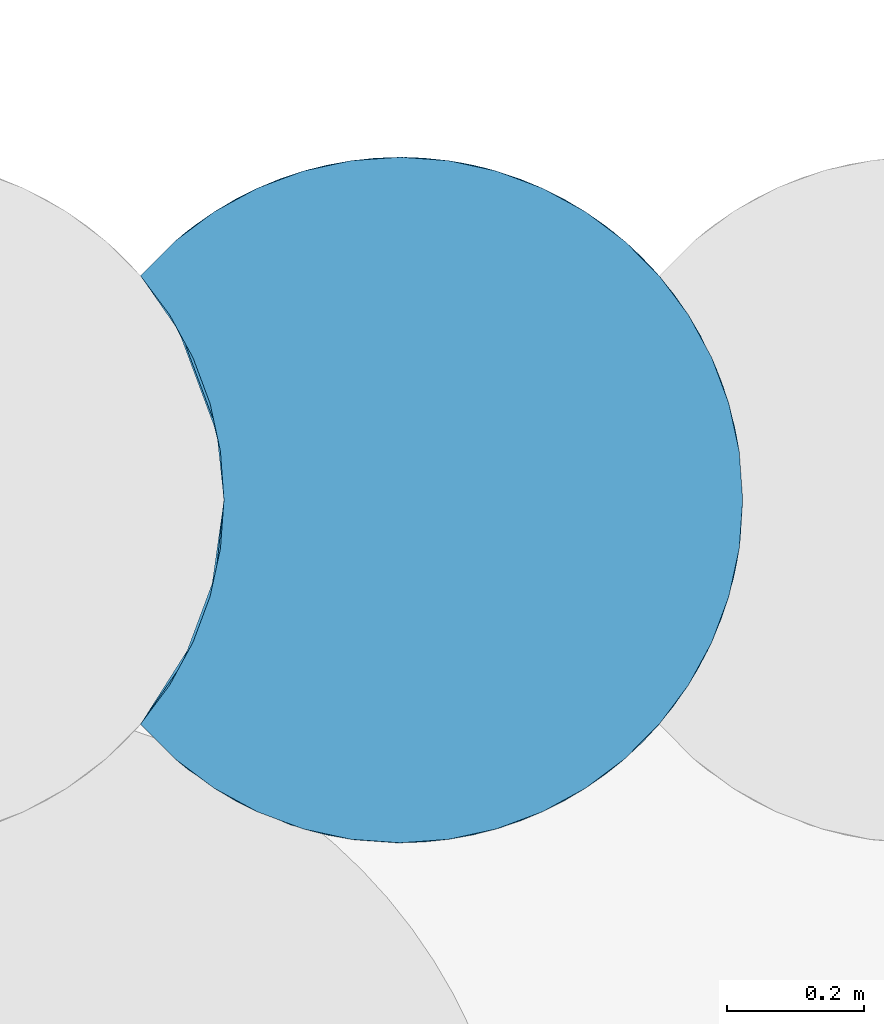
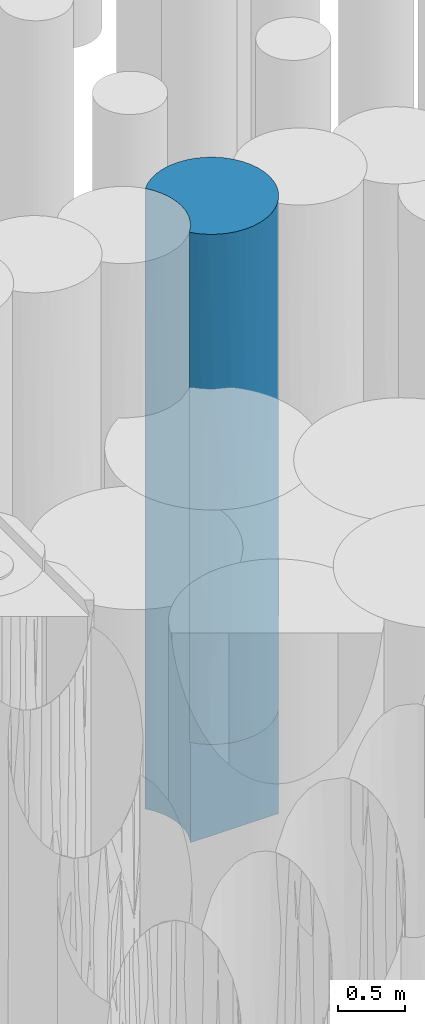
# One storey, part 30 of 104: 1 pile.
"""IFC2X3 building model written with IfcOpenShell, lengths in millimetres."""

from ifc_helpers import new_model, entity, si_unit, converted_unit, derived_unit, direction, frame, origin, place, context, subcontext, project, spatial, faceted_brep, source, transform, mapped, material, element, save


model = new_model("IFC2X3")

# Units and contexts
model_context = context("Model", 3, precision=0.01, world=origin(), true_north=direction((6.12303176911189e-17, 1.0)))
body_context = subcontext(model_context, "Body", "Model", "MODEL_VIEW")
ifc_project = project(units=[si_unit("LENGTHUNIT", "METRE", prefix="MILLI"), si_unit("AREAUNIT", "SQUARE_METRE", prefix="MILLI"), si_unit("VOLUMEUNIT", "CUBIC_METRE"), converted_unit("PLANEANGLEUNIT", "DEGREE", entity("IfcRatioMeasure", 0.0174532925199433), si_unit("PLANEANGLEUNIT", "RADIAN"), dimensions=[0, 0, 0, 0, 0, 0, 0]), si_unit("MASSUNIT", "GRAM", prefix="KILO"), derived_unit("MASSDENSITYUNIT", [(si_unit("MASSUNIT", "GRAM", prefix="KILO"), 1), (si_unit("LENGTHUNIT", "METRE"), -3)]), derived_unit("MOMENTOFINERTIAUNIT", [(si_unit("LENGTHUNIT", "METRE"), 4)]), si_unit("TIMEUNIT", "SECOND"), si_unit("FREQUENCYUNIT", "HERTZ"), si_unit("THERMODYNAMICTEMPERATUREUNIT", "DEGREE_CELSIUS"), derived_unit("THERMALTRANSMITTANCEUNIT", [(si_unit("MASSUNIT", "GRAM", prefix="KILO"), 1), (si_unit("THERMODYNAMICTEMPERATUREUNIT", "KELVIN"), -1), (si_unit("TIMEUNIT", "SECOND"), -3)]), derived_unit("VOLUMETRICFLOWRATEUNIT", [(si_unit("LENGTHUNIT", "METRE"), 3), (si_unit("TIMEUNIT", "SECOND"), -1)]), si_unit("ELECTRICCURRENTUNIT", "AMPERE"), si_unit("ELECTRICVOLTAGEUNIT", "VOLT"), si_unit("POWERUNIT", "WATT"), si_unit("FORCEUNIT", "NEWTON", prefix="KILO"), si_unit("ILLUMINANCEUNIT", "LUX"), si_unit("LUMINOUSFLUXUNIT", "LUMEN"), si_unit("LUMINOUSINTENSITYUNIT", "CANDELA"), derived_unit("USERDEFINED", [(si_unit("MASSUNIT", "GRAM", prefix="KILO"), -1), (si_unit("LENGTHUNIT", "METRE"), -2), (si_unit("TIMEUNIT", "SECOND"), 3), (si_unit("LUMINOUSFLUXUNIT", "LUMEN"), 1)]), derived_unit("LINEARVELOCITYUNIT", [(si_unit("LENGTHUNIT", "METRE"), 1), (si_unit("TIMEUNIT", "SECOND"), -1)]), si_unit("PRESSUREUNIT", "PASCAL"), derived_unit("USERDEFINED", [(si_unit("LENGTHUNIT", "METRE"), -2), (si_unit("MASSUNIT", "GRAM", prefix="KILO"), 1), (si_unit("TIMEUNIT", "SECOND"), -2)]), derived_unit("LINEARFORCEUNIT", [(si_unit("MASSUNIT", "GRAM", prefix="KILO"), 1), (si_unit("LENGTHUNIT", "METRE"), 1), (si_unit("TIMEUNIT", "SECOND"), -2), (si_unit("LENGTHUNIT", "METRE"), -1)]), derived_unit("PLANARFORCEUNIT", [(si_unit("MASSUNIT", "GRAM", prefix="KILO"), 1), (si_unit("LENGTHUNIT", "METRE"), 1), (si_unit("TIMEUNIT", "SECOND"), -2), (si_unit("LENGTHUNIT", "METRE"), -2)])], contexts=[model_context])

# Site, building, storey
site_placement = place(None, origin())
site = spatial("IfcSite", under=ifc_project, at=site_placement, Name="Theater aan de Parade", CompositionType="ELEMENT")
building_placement = place(site_placement, origin())
building = spatial("IfcBuilding", under=site, at=building_placement, Name="Theater aan de Parade", CompositionType="ELEMENT")
storey_placement = place(building_placement, frame((0.0, 0.0, -5520.0)))
storey = spatial("IfcBuildingStorey", under=building, at=storey_placement, Name="-2 kelder", CompositionType="ELEMENT", Elevation=-5520.0)

# Pile
ifc_material = material(Name="00_PBT_MAT_grout")
shared_shape = source(origin(), body_context, "Body", "Brep", [
    faceted_brep([(379.879894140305, 1001.59527223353, 0.0), (451.135842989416, 996.491974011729, 0.0), (520.937017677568, 981.286001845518, 0.0), (587.858902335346, 956.287680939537, 0.0), (650.535674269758, 922.007022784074, 0.0), (707.688019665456, 879.143347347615, 0.0), (758.137916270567, 828.577274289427, 0.0), (800.764509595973, 771.515742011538, 0.0), (834.8429887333, 708.982775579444, 0.0), (859.692501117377, 642.239896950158, 0.0), (874.807578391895, 572.642219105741, 0.0), (879.880986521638, 501.595272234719, 0.0), (876.637177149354, 444.733271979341, 0.0), (866.96351374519, 388.676665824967, 0.0), (850.978622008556, 334.06313251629, 0.0), (828.879872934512, 281.595272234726, 0.0), (72.3084443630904, 281.595272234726, 0.0), (94.4019982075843, 334.048524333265, 0.0), (110.389831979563, 388.666946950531, 0.0), (120.066807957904, 444.742527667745, 0.0), (123.309557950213, 501.595272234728, 0.0), (118.238136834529, 572.628375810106, 0.0), (103.126750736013, 642.220524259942, 0.0), (78.2819444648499, 708.959993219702, 0.0), (44.2077119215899, 771.492926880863, 0.0), (1.59527223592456, 828.550801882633, 0.0), (52.0619478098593, 879.132923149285, 0.0), (109.216398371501, 922.000648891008, 0.0), (171.896165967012, 956.284522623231, 0.0), (238.82055225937, 981.284707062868, 0.0), (308.623372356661, 996.491576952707, 0.0), (868.237975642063, 608.868060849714, 3274.7733182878), (879.880986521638, 501.595272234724, 2496.92455001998), (872.469147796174, 587.367665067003, 2029.23110971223), (874.807578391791, 572.642219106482, 5620.0), (872.790677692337, 585.500196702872, 4448.84672051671), (859.69250108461, 642.239897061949, 5620.0), (840.84871027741, 695.267050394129, 838.572364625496), (780.477533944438, 800.79822374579, 941.938246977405), (717.902638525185, 870.026219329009, 853.985396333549), (464.773906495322, 994.335763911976, 4766.2452474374), (554.84499069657, 969.9835697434, 4677.89128729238), (486.308348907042, 990.13720138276, 3926.99183942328), (780.477533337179, 800.798224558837, 4359.72037239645), (758.157091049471, 828.561919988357, 5620.0), (800.764509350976, 771.515742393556, 5620.0), (469.372625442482, 993.521330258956, 2771.91834266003), (619.810314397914, 940.268177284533, 2810.0), (486.308348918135, 990.137201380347, 1616.8448459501), (503.444214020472, 986.086891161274, 807.926128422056), (72.226388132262, 895.738200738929, 1468.54201705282), (1.59527223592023, 828.550801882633, 1561.53797879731), (273.450019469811, 990.136416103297, 1369.22367124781), (619.810315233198, 940.26817682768, 1308.96625276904), (879.880986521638, 501.595272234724, 4839.23113750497), (744.845895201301, 843.356322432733, 3309.55466343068), (679.878371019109, 901.59723384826, 4157.39703894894), (79.8725308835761, 901.58893036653, 4644.80342660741), (52.0619478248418, 879.132923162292, 5620.0), (109.21639835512, 922.000648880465, 5620.0), (879.880986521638, 501.595272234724, 1561.53772498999), (586.541682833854, 956.887877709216, 3739.26694369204), (389.039049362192, 1001.51139508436, 1793.99271443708), (868.490803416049, 607.710524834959, 929.942290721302), (451.135842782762, 996.491974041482, 5620.0), (379.879894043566, 1001.59527223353, 5620.0), (415.599127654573, 1000.31785483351, 908.530614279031), (848.45759074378, 676.054338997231, 4359.70948984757), (834.842988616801, 708.982775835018, 5620.0), (818.918499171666, 740.85676618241, 3234.26713947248), (1.59527223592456, 828.550801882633, 3123.07595759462), (61.9110545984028, 887.464579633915, 3590.76885422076), (68.1882758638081, 892.552628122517, 2590.58974056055), (344.160365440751, 1000.31767721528, 4295.47011353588), (308.623372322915, 996.491576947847, 5620.0), (650.535673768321, 922.007023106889, 5620.0), (707.688019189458, 879.143347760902, 5620.0), (171.89616594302, 956.284522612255, 5620.0), (238.820552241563, 981.284707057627, 5620.0), (204.911275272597, 969.981437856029, 4644.80576571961), (800.902375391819, 771.300648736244, 1891.90438181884), (848.457591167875, 676.054337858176, 1666.8684301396), (1.59527223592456, 828.550801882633, 5620.0), (139.943160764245, 940.263529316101, 960.825074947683), (879.880986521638, 501.595272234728, 4058.46227500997), (879.880986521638, 501.595272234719, 2810.0), (139.94316053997, 940.263529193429, 1976.25895999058), (249.52579601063, 984.303801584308, 3618.97619833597), (139.943160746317, 940.263529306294, 3852.81729588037), (733.827266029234, 854.755336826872, 1693.03978298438), (1.59527223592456, 828.550801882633, 4058.46202120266), (587.858901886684, 956.287681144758, 5620.0), (520.937017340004, 981.286001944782, 5620.0), (691.049980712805, 892.969590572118, 2404.07247122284), (879.880986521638, 501.595272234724, 5620.0), (148.841139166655, 945.01447449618, 2914.53812772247), (395.600625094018, 1001.34810410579, 3455.05166922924), (236.822647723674, 980.692664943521, 2354.5142891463), (344.160364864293, 1000.317677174, 2614.63322816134), (760.03102754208, 826.381273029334, 2475.87045222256), (852.90126574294, 663.619392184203, 2551.21472388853), (109.218127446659, 81.1887823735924, 1000.0), (171.900334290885, 46.9041151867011, 1000.0), (139.946073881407, 62.9254217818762, 1960.83076234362), (868.249817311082, 394.376406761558, 1095.51766968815), (52.0616515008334, 124.057878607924, 1000.0), (72.2277471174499, 107.451282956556, 2468.55227379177), (219.851591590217, 27.8964303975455, 3377.23961249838), (273.457935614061, 13.0524038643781, 2397.70917771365), (313.934714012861, 5.9632624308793, 3256.16165222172), (238.827254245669, 21.9038666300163, 1000.0), (308.632495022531, 6.69765407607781, 1000.0), (868.576941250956, 395.877422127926, 3250.85384075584), (872.224581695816, 414.430002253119, 4638.91679328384), (379.891107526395, 1.59527233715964, 1000.0), (451.148623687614, 6.70041078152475, 1000.0), (415.611160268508, 2.87355154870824, 2131.63816377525), (619.810315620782, 62.9223678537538, 4675.44822935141), (520.937017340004, 21.9045425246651, 5620.0), (486.308349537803, 13.0533432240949, 4394.95842070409), (139.943161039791, 62.9270150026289, 4329.654324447), (171.896165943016, 46.9060218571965, 5620.0), (109.21639835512, 81.1898955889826, 5620.0), (415.611160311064, 2.87355155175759, 3309.99156499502), (374.929221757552, 1.61979281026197, 4574.50689499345), (139.946073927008, 62.9254217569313, 2976.27378498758), (554.858770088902, 33.2121221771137, 2398.16872201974), (520.950689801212, 21.9085632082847, 1000.0), (587.872693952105, 46.9091721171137, 1000.0), (865.283747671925, 381.661292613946, 2185.76885280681), (650.548786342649, 81.191963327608, 1000.0), (679.890799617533, 101.602632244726, 2277.93081230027), (753.904323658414, 169.772212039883, 1973.19405511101), (778.382906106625, 199.608153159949, 3310.00863151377), (702.650683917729, 119.731785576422, 3256.91390852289), (1.5952722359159, 174.639742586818, 2561.53770750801), (1.5952722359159, 174.639742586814, 3342.30656126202), (1.5952722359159, 174.639742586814, 4123.07541501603), (71.0484315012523, 108.374656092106, 3732.69098814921), (61.1388618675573, 116.363578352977, 4662.75544674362), (834.030131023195, 292.433720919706, 3150.3198759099), (848.457591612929, 327.136207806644, 4098.49681985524), (828.879872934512, 281.595272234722, 1000.0), (523.466913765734, 22.6557337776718, 3362.22140211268), (273.450019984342, 13.0541282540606, 4114.58137139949), (238.820552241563, 21.9058374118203, 5620.0), (308.62337232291, 6.69896752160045, 5620.0), (1.5952722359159, 174.639742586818, 1000.0), (451.135842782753, 6.69857042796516, 5620.0), (379.879894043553, 1.5952722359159, 5620.0), (619.810315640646, 62.9223678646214, 3675.40494369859), (707.69970369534, 124.05734212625, 1000.0), (813.813841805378, 253.195841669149, 2211.63549262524), (796.953909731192, 225.823307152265, 1000.0), (800.764509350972, 231.674802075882, 5620.0), (800.620012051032, 231.449621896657, 4238.5371862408), (834.842988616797, 294.207768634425, 5620.0), (758.166700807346, 174.639742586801, 1000.0), (733.827266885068, 148.43520850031, 4404.10424705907), (758.157091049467, 174.628624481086, 5620.0), (587.85890188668, 46.9028633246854, 5620.0), (859.692501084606, 360.950647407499, 5620.0), (1.59527223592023, 174.639742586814, 5620.0), (650.535673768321, 81.1835213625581, 5620.0), (707.688019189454, 124.047196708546, 5620.0), (874.807578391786, 430.548325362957, 5620.0), (52.0619478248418, 124.057621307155, 5620.0), (118.238136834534, 572.628375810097, 5620.0), (123.309557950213, 501.595272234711, 5620.0), (118.238136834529, 430.562168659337, 5620.0), (103.126750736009, 360.970020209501, 5620.0), (78.2819444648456, 294.230551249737, 5620.0), (44.2077119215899, 231.697617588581, 5620.0), (44.2077119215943, 771.492926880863, 5620.0), (78.2819444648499, 708.959993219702, 5620.0), (103.126750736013, 642.220524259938, 5620.0), (57.6972719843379, 749.198410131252, 1466.5777030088), (91.8940522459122, 676.033145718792, 959.607558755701), (91.8940518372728, 676.033146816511, 1973.54784366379), (51.0253182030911, 760.553238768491, 3590.76885486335), (55.2465190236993, 753.449320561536, 2591.96489924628), (114.790868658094, 593.498053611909, 2591.96487227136), (113.865321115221, 598.316744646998, 1466.57769835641), (123.309557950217, 501.595272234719, 1561.53772533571), (116.242558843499, 585.363145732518, 3590.76885123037), (123.309557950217, 501.595272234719, 3123.07545067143), (123.309557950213, 501.595272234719, 4058.46227466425), (91.8940514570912, 676.033147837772, 3856.2082679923), (111.923000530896, 607.693828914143, 4646.91290735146), (62.3595462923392, 740.833872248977, 4646.91290345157), (123.309557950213, 501.595272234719, 2810.0), (62.3595469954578, 262.356673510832, 4717.37896061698), (111.564927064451, 393.860901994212, 1098.76555933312), (72.3084443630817, 281.595272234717, 1000.0), (103.748191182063, 363.108017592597, 2185.76885279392), (59.5557267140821, 257.28137529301, 2036.35430148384), (80.3363404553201, 298.798526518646, 3013.88536214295), (40.3944701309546, 225.841439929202, 1000.0), (52.9290067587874, 245.807998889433, 3897.62512214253), (111.923000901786, 395.496717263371, 4717.37896068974), (91.8940525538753, 327.157399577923, 4015.2108533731), (113.298293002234, 402.041068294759, 3273.65625530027)], [[[0, 1, 2, 3, 4, 5, 6, 7, 8, 9, 10, 11, 12, 13, 14, 15, 16, 17, 18, 19, 20, 21, 22, 23, 24, 25, 26, 27, 28, 29, 30]], [[31, 32, 33]], [[34, 35, 36]], [[37, 7, 38]], [[6, 5, 39]], [[7, 6, 38]], [[40, 41, 42]], [[43, 44, 45]], [[46, 47, 48]], [[2, 49, 3]], [[50, 26, 51]], [[30, 29, 52]], [[53, 39, 4]], [[38, 6, 39]], [[35, 34, 54]], [[55, 47, 56]], [[53, 4, 3]], [[57, 58, 59]], [[60, 33, 32]], [[41, 61, 42]], [[48, 62, 46]], [[63, 10, 9]], [[64, 40, 65]], [[66, 62, 48]], [[36, 67, 68]], [[53, 3, 49]], [[67, 43, 68]], [[69, 67, 31]], [[70, 71, 72]], [[68, 43, 45]], [[73, 74, 65]], [[75, 76, 56]], [[77, 78, 79]], [[41, 75, 56]], [[37, 80, 81]], [[30, 52, 66]], [[82, 58, 57]], [[48, 49, 66]], [[55, 43, 69]], [[52, 29, 83]], [[31, 84, 85, 32]], [[86, 83, 50]], [[79, 87, 88]], [[63, 9, 37]], [[37, 9, 8]], [[39, 89, 38]], [[51, 26, 25]], [[83, 28, 27]], [[47, 53, 48]], [[11, 10, 63]], [[90, 71, 70]], [[67, 69, 43]], [[91, 41, 92]], [[93, 53, 47]], [[41, 40, 92]], [[40, 64, 92]], [[34, 94, 54]], [[56, 43, 55]], [[66, 49, 1]], [[79, 88, 57]], [[72, 95, 86]], [[42, 96, 73]], [[97, 52, 86]], [[79, 74, 73]], [[83, 29, 28]], [[59, 77, 79]], [[43, 76, 44]], [[72, 51, 70]], [[1, 0, 66]], [[76, 43, 56]], [[79, 57, 59]], [[83, 27, 26]], [[52, 83, 86]], [[74, 79, 78]], [[87, 79, 73]], [[71, 57, 88]], [[82, 57, 90]], [[75, 41, 91]], [[61, 56, 47]], [[80, 38, 89]], [[37, 81, 63]], [[33, 63, 81]], [[11, 63, 60]], [[30, 66, 0]], [[62, 52, 98]], [[96, 87, 73]], [[95, 97, 86]], [[99, 80, 89]], [[100, 80, 69]], [[56, 61, 41]], [[46, 61, 47]], [[63, 33, 60]], [[33, 100, 31]], [[33, 81, 100]], [[67, 35, 31]], [[57, 71, 90]], [[95, 72, 71]], [[95, 71, 88]], [[72, 86, 50]], [[80, 100, 81]], [[69, 31, 100]], [[52, 62, 66]], [[46, 62, 98]], [[88, 87, 95]], [[97, 87, 98]], [[87, 97, 95]], [[52, 97, 98]], [[99, 69, 80]], [[99, 93, 55]], [[26, 50, 83]], [[72, 50, 51]], [[42, 73, 40]], [[65, 40, 73]], [[4, 39, 5]], [[53, 89, 39]], [[7, 37, 8]], [[80, 37, 38]], [[53, 49, 48]], [[1, 49, 2]], [[93, 99, 89]], [[69, 99, 55]], [[53, 93, 89]], [[55, 93, 47]], [[96, 46, 98]], [[46, 42, 61]], [[46, 96, 42]], [[87, 96, 98]], [[35, 54, 84]], [[31, 35, 84]], [[35, 67, 36]], [[101, 102, 103]], [[11, 60, 104]], [[105, 103, 106]], [[107, 108, 109]], [[108, 110, 111]], [[112, 84, 113]], [[114, 115, 116]], [[117, 118, 119]], [[120, 121, 122]], [[123, 119, 124]], [[103, 110, 108]], [[108, 111, 116]], [[108, 125, 103]], [[126, 127, 128]], [[129, 104, 60]], [[130, 131, 128]], [[132, 133, 134]], [[127, 126, 116]], [[135, 106, 136]], [[137, 138, 139]], [[140, 112, 141]], [[142, 14, 104]], [[138, 106, 125]], [[141, 112, 113]], [[143, 116, 126]], [[120, 144, 145]], [[145, 144, 146]], [[146, 144, 124]], [[109, 123, 124]], [[147, 105, 135]], [[148, 149, 124]], [[116, 111, 114]], [[148, 119, 118]], [[150, 143, 126]], [[131, 130, 151]], [[112, 129, 85]], [[152, 132, 153]], [[154, 155, 156]], [[132, 157, 153]], [[158, 155, 159]], [[129, 112, 140]], [[152, 153, 142]], [[129, 60, 32, 85]], [[116, 123, 109]], [[13, 104, 14]], [[117, 160, 118]], [[106, 103, 125]], [[12, 11, 104]], [[14, 142, 15]], [[103, 102, 110]], [[103, 105, 101]], [[161, 156, 141]], [[126, 128, 131]], [[162, 137, 139]], [[117, 163, 160]], [[126, 131, 150]], [[151, 157, 132]], [[107, 120, 125]], [[158, 164, 117]], [[133, 155, 158]], [[117, 164, 163]], [[158, 159, 164]], [[155, 154, 159]], [[94, 165, 113]], [[119, 150, 117]], [[143, 119, 123]], [[120, 145, 121]], [[134, 158, 150]], [[113, 161, 141]], [[150, 131, 134]], [[116, 115, 127]], [[148, 124, 119]], [[158, 117, 150]], [[122, 166, 139]], [[142, 129, 152]], [[138, 120, 139]], [[105, 106, 135]], [[138, 137, 136]], [[106, 138, 136]], [[125, 120, 138]], [[122, 139, 120]], [[162, 139, 166]], [[142, 104, 129]], [[12, 104, 13]], [[84, 112, 85]], [[155, 140, 141]], [[133, 152, 140]], [[129, 140, 152]], [[113, 84, 54, 94]], [[161, 113, 165]], [[119, 143, 150]], [[116, 143, 123]], [[107, 109, 144]], [[116, 109, 108]], [[120, 107, 144]], [[108, 107, 125]], [[133, 132, 152]], [[151, 132, 131]], [[132, 134, 131]], [[158, 134, 133]], [[140, 155, 133]], [[155, 141, 156]], [[146, 124, 149]], [[124, 144, 109]], [[167, 168, 169, 170, 171, 172, 162, 166, 122, 121, 145, 146, 149, 148, 118, 160, 163, 164, 159, 154, 156, 161, 165, 94, 34, 36, 68, 45, 44, 76, 75, 91, 92, 64, 65, 74, 78, 77, 59, 58, 82, 173, 174, 175]], [[176, 177, 178]], [[179, 70, 180]], [[181, 182, 183]], [[24, 51, 25]], [[184, 185, 186]], [[21, 182, 177]], [[187, 188, 189]], [[22, 21, 177]], [[23, 22, 177]], [[70, 51, 180]], [[188, 167, 175]], [[188, 186, 168]], [[90, 70, 179]], [[174, 173, 189]], [[24, 23, 177]], [[175, 174, 188]], [[174, 189, 188]], [[187, 181, 184]], [[189, 173, 82]], [[51, 24, 176]], [[178, 177, 182]], [[183, 21, 20]], [[167, 188, 168]], [[186, 188, 184]], [[187, 189, 179]], [[90, 189, 82]], [[185, 184, 181]], [[187, 184, 188]], [[181, 183, 190, 185]], [[180, 178, 181]], [[90, 179, 189]], [[180, 181, 187]], [[179, 180, 187]], [[176, 178, 180]], [[177, 176, 24]], [[51, 176, 180]], [[178, 182, 181]], [[183, 182, 21]], [[172, 171, 191]], [[192, 17, 193]], [[194, 195, 196]], [[147, 195, 197]], [[192, 193, 194]], [[198, 135, 136, 137]], [[193, 197, 195]], [[168, 199, 169]], [[191, 137, 162]], [[198, 191, 200]], [[17, 16, 193]], [[196, 198, 200]], [[183, 194, 190]], [[172, 191, 162]], [[186, 199, 168]], [[199, 191, 171, 170]], [[18, 17, 192]], [[20, 19, 192]], [[186, 201, 199]], [[200, 191, 199]], [[169, 199, 170]], [[200, 199, 201]], [[137, 191, 198]], [[201, 196, 200]], [[192, 183, 20]], [[201, 190, 194]], [[196, 135, 198]], [[193, 195, 194]], [[195, 135, 196]], [[147, 135, 195]], [[196, 201, 194]], [[201, 186, 185, 190]], [[18, 192, 19]], [[183, 192, 194]], [[102, 101, 105, 147, 197, 193, 142, 153, 157, 151, 130, 128, 127, 115, 114, 111, 110]], [[142, 193, 16, 15]]]),
])
pile_placement = place(storey_placement, frame((37400.2628578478, 26760.7721311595, -3840.0)))
element("IfcPile", 1, at=pile_placement, inside=storey, material=ifc_material, Name="17_PBT_SFO_grondkering_rond:Ø1000 (grondkering)", ObjectType="17_PBT_SFO_grondkering_rond:Ø1000 (grondkering)", PredefinedType="NOTDEFINED", context=body_context, shape_type="MappedRepresentation", body=[
    mapped(shared_shape, transform((0.0, 0.0, 0.0), scale=1.0)),
])

save(model, "model.ifc")
